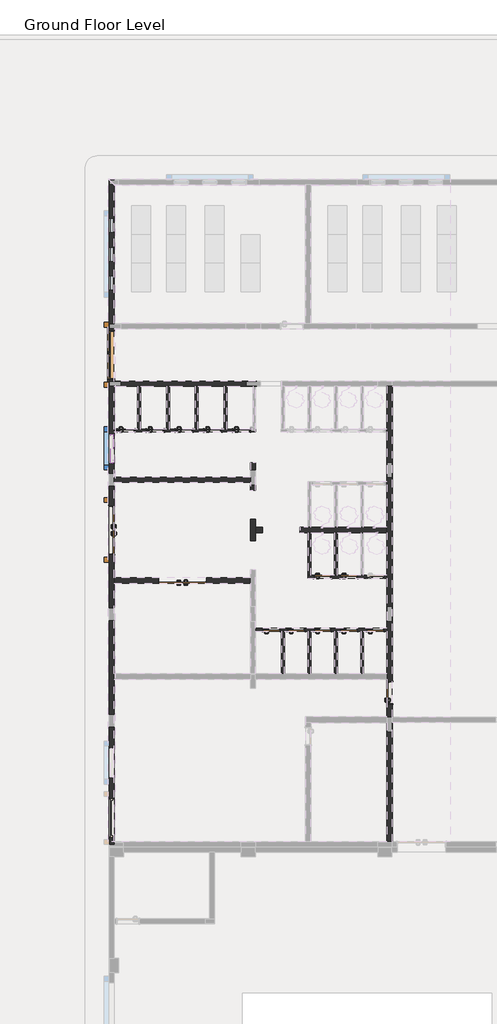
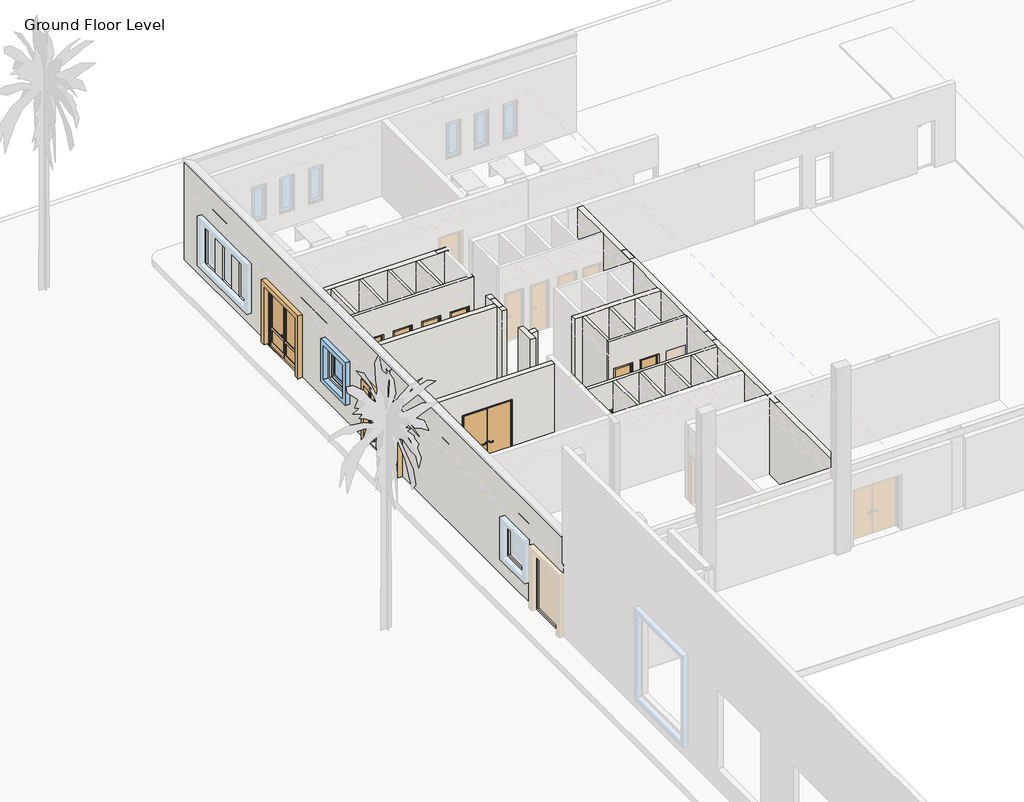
# One storey, part 7 of 23: 22 walls, 18 doors, 2 windows.
"""IFC4 building model written with IfcOpenShell, lengths in millimetres."""

from ifc_helpers import new_model, si_unit, frame, origin, place, context, project, spatial, polyline, outline, extrude, faceted_brep, transform, mapped, element, save
from components import door_batten_type_1_cc625f3b, ext_double_out_timber_2lite_nz_2000x_2500_b5d1efe6, int_double_flush_nz_2000_x_2500_d3729d4c, int_single_flush_nz_700x_2100_d6161bae, int_single_flush_nz_700x_2100_e1d28701, int_single_flush_nz_900_x_2100_021ef152, window_batten_type_1_bbb21959, window_single_shutter_w5_77842b58

model = new_model("IFC4")

# Units and contexts
model_context = context("Model", 3, world=origin())
ifc_project = project(units=[si_unit("LENGTHUNIT", "METRE", prefix="MILLI")], contexts=[model_context])

# Site, building, storey
site = spatial("IfcSite", under=ifc_project)
building = spatial("IfcBuilding", under=site)
storey = spatial("IfcBuildingStorey", under=building, Name="Ground Floor Level", Elevation=900.0)

# Doors
placement = place(None, origin())
door_batten_type_1_shape = door_batten_type_1_cc625f3b(model_context)
element("IfcDoor", 1, ObjectType="Door Batten : Type 1", at=placement, inside=storey, context=model_context, shape_type="MappedRepresentation", body=[
    mapped(door_batten_type_1_shape, transform((-21947.2327605, 7178.5912591, 987.2608957), x_axis=(0.0, -1.0, 0.0), y_axis=(1.0, 0.0, 0.0), z_axis=(0.0, 0.0, 1.0))),
])
element("IfcDoor", 2, ObjectType="Door Batten : Type 1", at=placement, inside=storey, context=model_context, shape_type="MappedRepresentation", body=[
    mapped(door_batten_type_1_shape, transform((-21947.2327605, 14481.8394477, 987.2608957), x_axis=(0.0, -1.0, 0.0), y_axis=(1.0, 0.0, 0.0), z_axis=(0.0, 0.0, 1.0))),
])
ext_double_out_timber_2lite_nz_2000x_2500_shape = ext_double_out_timber_2lite_nz_2000x_2500_b5d1efe6(model_context)
element("IfcDoor", 3, ObjectType="Ext Double Out-Timber-2Lite (NZ) : 2000x 2500", at=placement, inside=storey, context=model_context, shape_type="MappedRepresentation", body=[
    mapped(ext_double_out_timber_2lite_nz_2000x_2500_shape, transform((-21949.9622778, 14487.2153534, 900.0), x_axis=(0.0, 1.0, 0.0), y_axis=(-1.0, 0.0, 0.0), z_axis=(0.0, 0.0, 1.0))),
])
int_double_flush_nz_2000_x_2500_shape = int_double_flush_nz_2000_x_2500_d3729d4c(model_context)
element("IfcDoor", 4, ObjectType="Int Double-Flush (NZ) : 2000 x 2500", at=placement, inside=storey, context=model_context, shape_type="MappedRepresentation", body=[
    mapped(int_double_flush_nz_2000_x_2500_shape, transform((-21947.2327605, 7045.2153534, 1000.0), x_axis=(0.0, -1.0, 0.0), y_axis=(1.0, 0.0, 0.0), z_axis=(0.0, 0.0, 1.0))),
])
element("IfcDoor", 5, ObjectType="Int Double-Flush (NZ) : 2000 x 2500", at=placement, inside=storey, context=model_context, shape_type="MappedRepresentation", body=[
    mapped(int_double_flush_nz_2000_x_2500_shape, transform((-18997.2327605, 4945.2153534, 900.0), x_axis=(-1.0, 0.0, 0.0), y_axis=(0.0, -1.0, 0.0), z_axis=(0.0, 0.0, 1.0))),
])
int_single_flush_nz_700x_2100_shape = int_single_flush_nz_700x_2100_d6161bae(model_context)
element("IfcDoor", 6, ObjectType="Int Single-Flush (NZ) : 700x 2100", at=placement, inside=storey, context=model_context, shape_type="MappedRepresentation", body=[
    mapped(int_single_flush_nz_700x_2100_shape, transform((-21272.2327605, 11195.2153534, 1000.0), x_axis=(1.0, 0.0, 0.0), y_axis=(0.0, 1.0, 0.0), z_axis=(0.0, 0.0, 1.0))),
])
element("IfcDoor", 7, ObjectType="Int Single-Flush (NZ) : 700x 2100", at=placement, inside=storey, context=model_context, shape_type="MappedRepresentation", body=[
    mapped(int_single_flush_nz_700x_2100_shape, transform((-20051.2327605, 11195.2153534, 1000.0), x_axis=(1.0, 0.0, 0.0), y_axis=(0.0, 1.0, 0.0), z_axis=(0.0, 0.0, 1.0))),
])
element("IfcDoor", 8, ObjectType="Int Single-Flush (NZ) : 700x 2100", at=placement, inside=storey, context=model_context, shape_type="MappedRepresentation", body=[
    mapped(int_single_flush_nz_700x_2100_shape, transform((-18851.2327605, 11195.2153534, 1000.0), x_axis=(1.0, 0.0, 0.0), y_axis=(0.0, 1.0, 0.0), z_axis=(0.0, 0.0, 1.0))),
])
element("IfcDoor", 9, ObjectType="Int Single-Flush (NZ) : 700x 2100", at=placement, inside=storey, context=model_context, shape_type="MappedRepresentation", body=[
    mapped(int_single_flush_nz_700x_2100_shape, transform((-17651.2327605, 11195.2153534, 1000.0), x_axis=(1.0, 0.0, 0.0), y_axis=(0.0, 1.0, 0.0), z_axis=(0.0, 0.0, 1.0))),
])
element("IfcDoor", 10, ObjectType="Int Single-Flush (NZ) : 700x 2100", at=placement, inside=storey, context=model_context, shape_type="MappedRepresentation", body=[
    mapped(int_single_flush_nz_700x_2100_shape, transform((-16451.2327605, 11195.2153534, 1000.0), x_axis=(1.0, 0.0, 0.0), y_axis=(0.0, 1.0, 0.0), z_axis=(0.0, 0.0, 1.0))),
])
element("IfcDoor", 11, ObjectType="Int Single-Flush (NZ) : 700x 2100", at=placement, inside=storey, context=model_context, shape_type="MappedRepresentation", body=[
    mapped(int_single_flush_nz_700x_2100_shape, transform((-13072.2327605, 5095.2153534, 1000.0), x_axis=(1.0, 0.0, 0.0), y_axis=(0.0, 1.0, 0.0), z_axis=(0.0, 0.0, 1.0))),
])
element("IfcDoor", 12, ObjectType="Int Single-Flush (NZ) : 700x 2100", at=placement, inside=storey, context=model_context, shape_type="MappedRepresentation", body=[
    mapped(int_single_flush_nz_700x_2100_shape, transform((-11972.2327605, 5095.2153534, 1000.0), x_axis=(1.0, 0.0, 0.0), y_axis=(0.0, 1.0, 0.0), z_axis=(0.0, 0.0, 1.0))),
])
int_single_flush_nz_700x_2100_2_shape = int_single_flush_nz_700x_2100_e1d28701(model_context)
element("IfcDoor", 13, ObjectType="Int Single-Flush (NZ) : 700x 2100", at=placement, inside=storey, context=model_context, shape_type="MappedRepresentation", body=[
    mapped(int_single_flush_nz_700x_2100_2_shape, transform((-10872.2327605, 2885.2153534, 1000.0), x_axis=(1.0, 0.0, 0.0), y_axis=(0.0, 1.0, 0.0), z_axis=(0.0, 0.0, 1.0))),
])
element("IfcDoor", 14, ObjectType="Int Single-Flush (NZ) : 700x 2100", at=placement, inside=storey, context=model_context, shape_type="MappedRepresentation", body=[
    mapped(int_single_flush_nz_700x_2100_2_shape, transform((-11972.2327605, 2885.2153534, 1000.0), x_axis=(1.0, 0.0, 0.0), y_axis=(0.0, 1.0, 0.0), z_axis=(0.0, 0.0, 1.0))),
])
element("IfcDoor", 15, ObjectType="Int Single-Flush (NZ) : 700x 2100", at=placement, inside=storey, context=model_context, shape_type="MappedRepresentation", body=[
    mapped(int_single_flush_nz_700x_2100_2_shape, transform((-13072.2327605, 2885.2153534, 1000.0), x_axis=(1.0, 0.0, 0.0), y_axis=(0.0, 1.0, 0.0), z_axis=(0.0, 0.0, 1.0))),
])
element("IfcDoor", 16, ObjectType="Int Single-Flush (NZ) : 700x 2100", at=placement, inside=storey, context=model_context, shape_type="MappedRepresentation", body=[
    mapped(int_single_flush_nz_700x_2100_2_shape, transform((-14172.2327605, 2885.2153534, 1000.0), x_axis=(1.0, 0.0, 0.0), y_axis=(0.0, 1.0, 0.0), z_axis=(0.0, 0.0, 1.0))),
])
element("IfcDoor", 17, ObjectType="Int Single-Flush (NZ) : 700x 2100", at=placement, inside=storey, context=model_context, shape_type="MappedRepresentation", body=[
    mapped(int_single_flush_nz_700x_2100_2_shape, transform((-15201.7327605, 2885.2153534, 1000.0), x_axis=(1.0, 0.0, 0.0), y_axis=(0.0, 1.0, 0.0), z_axis=(0.0, 0.0, 1.0))),
])
int_single_flush_nz_900_x_2100_shape = int_single_flush_nz_900_x_2100_021ef152(model_context)
element("IfcDoor", 18, ObjectType="Int Single-Flush (NZ) : 900 x 2100", at=placement, inside=storey, context=model_context, shape_type="MappedRepresentation", body=[
    mapped(int_single_flush_nz_900_x_2100_shape, transform((-10347.2327605, 341.2153534, 1000.0), x_axis=(0.0, 1.0, 0.0), y_axis=(-1.0, 0.0, 0.0), z_axis=(0.0, 0.0, 1.0))),
])

# Walls
element("IfcWall", 19, ObjectType="Exterior - Blockwork 200mm", at=placement, inside=storey, context=model_context, shape_type="Brep", body=[
    faceted_brep([(-21837.2327605, 21655.2153534, 5302.8002678), (-21837.2327605, 21435.2153534, 5302.8002678), (-21837.2327605, -5944.7846466, 5302.8002678), (-21837.2327605, -5944.7846466, 4550.0), (-21837.2327605, 21435.2153534, 4550.0), (-21837.2327605, 21645.2153534, 4550.0), (-21837.2327605, 21645.2153534, 900.0), (-21837.2327605, 21655.2153534, 900.0), (-21837.2327605, 13045.2153534, 4400.0), (-21837.2327605, 13035.2153534, 4400.0), (-21837.2327605, 11255.2153534, 4400.0), (-21837.2327605, 11135.2153534, 4400.0), (-21837.2327605, 9255.2153534, 4400.0), (-21837.2327605, 9035.2153534, 4400.0), (-21837.2327605, 5055.2153534, 4400.0), (-21837.2327605, 4835.2153534, 4400.0), (-21837.2327605, 1055.2153534, 4400.0), (-21837.2327605, 835.2153534, 4400.0), (-21837.2327605, -5944.7846466, 4400.0), (-21837.2327605, -5944.7846466, 4100.0), (-21837.2327605, -5954.7846466, 4100.0), (-21837.2327605, -6054.7846466, 4100.0), (-21837.2327605, -6054.7846466, 900.0), (-21837.2327605, -5954.7846466, 900.0), (-21837.2327605, -5954.7846466, 1000.0), (-21837.2327605, -5944.7846466, 1000.0), (-21837.2327605, -5744.7846466, 1000.0), (-21837.2327605, -5744.7846466, 3500.0), (-21837.2327605, -4144.7846466, 3500.0), (-21837.2327605, -4144.7846466, 1000.0), (-21837.2327605, 835.2153534, 1000.0), (-21837.2327605, 1055.2153534, 1000.0), (-21837.2327605, 6026.2153534, 1000.0), (-21837.2327605, 6026.2153534, 3519.0), (-21837.2327605, 8064.2153534, 3519.0), (-21837.2327605, 8064.2153534, 1000.0), (-21837.2327605, 13035.2153534, 1000.0), (-21837.2327605, 13045.2153534, 1000.0), (-21837.2327605, 11035.2153534, 2100.0), (-21837.2327605, 9835.2153534, 2100.0), (-21837.2327605, 9835.2153534, 3400.0), (-21837.2327605, 11035.2153534, 3400.0), (-21837.2327605, -3244.7846455, 2100.0), (-21837.2327605, -3244.7846455, 3400.0), (-21837.2327605, -2044.7846455, 3400.0), (-21837.2327605, -2044.7846455, 2100.0), (-21837.2327605, 15445.2153534, 4400.0), (-21837.2327605, 15435.2153534, 4400.0), (-21837.2327605, 13255.2153534, 4400.0), (-21837.2327605, 13245.2153534, 4400.0), (-21837.2327605, 13245.2153534, 1000.0), (-21837.2327605, 13319.2153534, 1000.0), (-21837.2327605, 13319.2153534, 3400.0), (-21837.2327605, 15371.2153534, 3400.0), (-21837.2327605, 15371.2153534, 1000.0), (-21837.2327605, 15435.2153534, 1000.0), (-21837.2327605, 15445.2153534, 1000.0), (-21837.2327605, 15645.2153534, 1000.0), (-21837.2327605, 15655.2153534, 1000.0), (-21837.2327605, 21435.2153534, 1000.0), (-21837.2327605, 21445.2153534, 1000.0), (-21837.2327605, 21445.2153534, 4400.0), (-21837.2327605, 21435.2153534, 4400.0), (-21837.2327605, 15655.2153534, 4400.0), (-21837.2327605, 15645.2153534, 4400.0), (-21837.2327605, 20035.2153534, 1700.0), (-21837.2327605, 19435.2153534, 1700.0), (-21837.2327605, 19435.2153534, 3300.0), (-21837.2327605, 20035.2153534, 3300.0), (-21837.2327605, 18835.2153534, 1700.0), (-21837.2327605, 18235.2153534, 1700.0), (-21837.2327605, 18235.2153534, 3300.0), (-21837.2327605, 18835.2153534, 3300.0), (-21837.2327605, 17635.2153534, 1700.0), (-21837.2327605, 17035.2153534, 1700.0), (-21837.2327605, 17035.2153534, 3300.0), (-21837.2327605, 17635.2153534, 3300.0), (-22057.2327605, -5944.7846466, 5302.8002678), (-22057.2327605, 21655.2153534, 5302.8002678), (-22057.2327605, 21655.2153534, 900.0), (-22057.2327605, 15371.2153534, 900.0), (-22057.2327605, 15371.2153534, 3400.0), (-22057.2327605, 13319.2153534, 3400.0), (-22057.2327605, 13319.2153534, 900.0), (-22057.2327605, -6054.7846466, 900.0), (-22057.2327605, -6054.7846466, 4100.0), (-22057.2327605, -5944.7846466, 4100.0), (-22057.2327605, 19435.2153534, 1700.0), (-22057.2327605, 20035.2153534, 1700.0), (-22057.2327605, 20035.2153534, 3300.0), (-22057.2327605, 19435.2153534, 3300.0), (-22057.2327605, 18235.2153534, 1700.0), (-22057.2327605, 18835.2153534, 1700.0), (-22057.2327605, 18835.2153534, 3300.0), (-22057.2327605, 18235.2153534, 3300.0), (-22057.2327605, 17035.2153534, 1700.0), (-22057.2327605, 17635.2153534, 1700.0), (-22057.2327605, 17635.2153534, 3300.0), (-22057.2327605, 17035.2153534, 3300.0), (-22057.2327605, 9835.2153534, 2100.0), (-22057.2327605, 11035.2153534, 2100.0), (-22057.2327605, 11035.2153534, 3400.0), (-22057.2327605, 9835.2153534, 3400.0), (-22057.2327605, -3244.7846455, 3400.0), (-22057.2327605, -3244.7846455, 2100.0), (-22057.2327605, -2044.7846455, 2100.0), (-22057.2327605, -2044.7846455, 3400.0), (-22057.2327605, 6026.2153534, 3519.0), (-22057.2327605, 6026.2153534, 1000.0), (-22057.2327605, 8064.2153534, 1000.0), (-22057.2327605, 8064.2153534, 3519.0), (-22057.2327605, -4144.7846466, 1000.0), (-22057.2327605, -4144.7846466, 3500.0), (-22057.2327605, -5744.7846466, 3500.0), (-22057.2327605, -5744.7846466, 1000.0), (-22047.2327605, 9395.2153534, 900.0), (-22047.2327605, 9395.2153534, 4400.0), (-22047.2327605, 13045.2153534, 4400.0), (-22047.2327605, 13045.2153534, 900.0), (-22047.2327605, 13245.2153534, 900.0), (-22047.2327605, 13245.2153534, 4400.0), (-22047.2327605, 15445.2153534, 4400.0), (-22047.2327605, 15445.2153534, 900.0), (-22047.2327605, 15645.2153534, 900.0), (-22047.2327605, 15645.2153534, 4400.0), (-22047.2327605, 21445.2153534, 4400.0), (-22047.2327605, 21445.2153534, 900.0), (-22047.2327605, 21645.2153534, 900.0), (-22047.2327605, 21645.2153534, 4400.0), (-22047.2327605, 21645.2153534, 4550.0), (-22047.2327605, -5944.7846466, 4550.0), (-22047.2327605, -5944.7846466, 4400.0), (-22047.2327605, -1154.7846466, 4400.0), (-22047.2327605, -1154.7846466, 900.0), (-22047.2327605, -654.7846466, 900.0), (-22047.2327605, -654.7846466, 4400.0), (-22047.2327605, 3295.2153534, 4400.0), (-22047.2327605, 3295.2153534, 900.0), (-22047.2327605, 3795.2153534, 900.0), (-22047.2327605, 3795.2153534, 4400.0), (-22047.2327605, 8895.2153534, 4400.0), (-22047.2327605, 8895.2153534, 900.0), (-21847.2327605, 9395.2153534, 900.0), (-21847.2327605, 9395.2153534, 1000.0), (-21847.2327605, 9395.2153534, 4400.0), (-21847.2327605, 8895.2153534, 4400.0), (-21847.2327605, 8895.2153534, 1000.0), (-21847.2327605, 8895.2153534, 900.0), (-21847.2327605, 3795.2153534, 900.0), (-21847.2327605, 3795.2153534, 1000.0), (-21847.2327605, 3795.2153534, 4400.0), (-21847.2327605, 3295.2153534, 4400.0), (-21847.2327605, 3295.2153534, 1000.0), (-21847.2327605, 3295.2153534, 900.0), (-21847.2327605, -654.7846466, 900.0), (-21847.2327605, -654.7846466, 1000.0), (-21847.2327605, -654.7846466, 4400.0), (-21847.2327605, -1154.7846466, 4400.0), (-21847.2327605, -1154.7846466, 1000.0), (-21847.2327605, -1154.7846466, 900.0), (-21847.2327605, 13245.2153534, 900.0), (-21847.2327605, 13245.2153534, 1000.0), (-21847.2327605, 13045.2153534, 1000.0), (-21847.2327605, 13045.2153534, 900.0), (-21847.2327605, 15645.2153534, 900.0), (-21847.2327605, 15645.2153534, 1000.0), (-21847.2327605, 15445.2153534, 1000.0), (-21847.2327605, 15445.2153534, 900.0), (-21847.2327605, 21445.2153534, 1000.0), (-21847.2327605, 21445.2153534, 900.0), (-21847.2327605, 13319.2153534, 1000.0), (-21847.2327605, 15371.2153534, 1000.0), (-21847.2327605, 13319.2153534, 900.0), (-21847.2327605, 15371.2153534, 900.0), (-21847.2327605, 6026.2153534, 1000.0), (-21847.2327605, -4144.7846466, 1000.0), (-21847.2327605, 845.2153534, 1000.0), (-21847.2327605, 8064.2153534, 1000.0), (-21847.2327605, -5954.7846466, 1000.0), (-21847.2327605, -5744.7846466, 1000.0), (-21847.2327605, 845.2153534, 900.0), (-21847.2327605, -5954.7846466, 900.0), (-22047.2327605, -6054.7846466, 900.0), (-22047.2327605, -6054.7846466, 4100.0)], [[[0, 1, 2, 3, 4, 5, 6, 7]], [[8, 9, 10, 11, 12, 13, 14, 15, 16, 17, 18, 19, 20, 21, 22, 23, 24, 25, 26, 27, 28, 29, 30, 31, 32, 33, 34, 35, 36, 37], [38, 39, 40, 41], [42, 43, 44, 45]], [[46, 47, 48, 49, 50, 51, 52, 53, 54, 55, 56]], [[57, 58, 59, 60, 61, 62, 63, 64], [65, 66, 67, 68], [69, 70, 71, 72], [73, 74, 75, 76]], [[77, 78, 79, 80, 81, 82, 83, 84, 85, 86], [87, 88, 89, 90], [91, 92, 93, 94], [95, 96, 97, 98], [99, 100, 101, 102], [103, 104, 105, 106], [107, 108, 109, 110], [111, 112, 113, 114]], [[0, 7, 79, 78]], [[66, 65, 88, 87]], [[65, 68, 89, 88]], [[68, 67, 90, 89]], [[67, 66, 87, 90]], [[70, 69, 92, 91]], [[69, 72, 93, 92]], [[72, 71, 94, 93]], [[71, 70, 91, 94]], [[74, 73, 96, 95]], [[73, 76, 97, 96]], [[76, 75, 98, 97]], [[75, 74, 95, 98]], [[39, 38, 100, 99]], [[38, 41, 101, 100]], [[41, 40, 102, 101]], [[40, 39, 99, 102]], [[115, 116, 117, 118, 119, 120, 121, 122, 123, 124, 125, 126, 127, 128, 129, 130, 131, 132, 133, 134, 135, 136, 137, 138, 139, 140, 141]], [[116, 115, 142, 143, 144]], [[145, 144, 143, 146]], [[141, 140, 145, 146, 147]], [[139, 138, 148, 149, 150]], [[151, 150, 149, 152]], [[137, 136, 151, 152, 153]], [[135, 134, 154, 155, 156]], [[157, 156, 155, 158]], [[133, 132, 157, 158, 159]], [[120, 119, 160, 161, 50, 49]], [[118, 117, 8, 37, 162, 163]], [[124, 123, 164, 165, 57, 64]], [[122, 121, 46, 56, 166, 167]], [[5, 129, 128, 127, 6]], [[126, 125, 61, 60, 168, 169]], [[43, 42, 104, 103]], [[44, 43, 103, 106]], [[45, 44, 106, 105]], [[42, 45, 105, 104]], [[140, 139, 150, 151, 136, 135, 156, 157, 132, 131, 18, 17, 16, 15, 14, 13, 12, 11, 10, 9, 8, 117, 116, 144, 145]], [[121, 120, 49, 48, 47, 46]], [[125, 124, 64, 63, 62, 61]], [[129, 5, 4, 3, 130]], [[51, 50, 161, 170]], [[166, 56, 55, 54, 171]], [[161, 160, 172, 170]], [[167, 166, 171, 173]], [[165, 168, 60, 59, 58, 57]], [[168, 165, 164, 169]], [[152, 149, 174, 32, 31, 30, 29, 175, 158, 155, 176]], [[143, 162, 37, 36, 35, 177, 146]], [[178, 179, 26, 25, 24]], [[147, 146, 177, 174, 149, 148]], [[162, 143, 142, 163]], [[152, 176, 155, 154, 180, 153]], [[178, 181, 159, 158, 175, 179]], [[181, 178, 24, 23]], [[107, 33, 32, 174, 108]], [[33, 107, 110, 34]], [[34, 110, 109, 177, 35]], [[109, 108, 174, 177]], [[28, 112, 111, 175, 29]], [[112, 28, 27, 113]], [[113, 27, 26, 179, 114]], [[111, 114, 179, 175]], [[53, 81, 80, 173, 171, 54]], [[81, 53, 52, 82]], [[82, 52, 51, 170, 172, 83]], [[77, 86, 19, 18, 131, 130, 3, 2]], [[80, 79, 7, 6, 127, 126, 169, 164, 123, 122, 167, 173]], [[84, 83, 172, 160, 119, 118, 163, 142, 115, 141, 147, 148, 138, 137, 153, 180, 154, 134, 133, 159, 181, 23, 22, 182]], [[2, 1, 0, 78, 77]], [[22, 21, 183, 85, 84, 182]], [[86, 85, 183, 21, 20, 19]]]),
])
element("IfcWall", 20, ObjectType="Interior - Blockwork 200", at=placement, inside=storey, context=model_context, shape_type="Brep", body=[
    faceted_brep([(-15896.7889704, 13035.2153534, 4400.0), (-15937.2327605, 13035.2153534, 4400.0), (-16057.2327605, 13035.2153534, 4400.0), (-17137.2327605, 13035.2153534, 4400.0), (-17257.2327605, 13035.2153534, 4400.0), (-18337.2327605, 13035.2153534, 4400.0), (-18457.2327605, 13035.2153534, 4400.0), (-19537.2327605, 13035.2153534, 4400.0), (-19657.2327605, 13035.2153534, 4400.0), (-20737.2327605, 13035.2153534, 4400.0), (-20857.2327605, 13035.2153534, 4400.0), (-21837.2327605, 13035.2153534, 4400.0), (-21837.2327605, 13035.2153534, 1000.0), (-15896.7889704, 13035.2153534, 1000.0), (-15896.7889704, 13255.2153534, 900.0), (-21837.2327605, 13255.2153534, 900.0), (-21837.2327605, 13255.2153534, 4400.0), (-15896.7889704, 13255.2153534, 4400.0), (-15896.7889704, 13245.2153534, 900.0), (-16347.2327605, 13245.2153534, 900.0), (-16347.2327605, 13045.2153534, 900.0), (-21547.2327605, 13045.2153534, 900.0), (-21547.2327605, 13245.2153534, 900.0), (-21837.2327605, 13245.2153534, 900.0), (-15896.7889704, 13245.2153534, 4400.0), (-15896.7889704, 13045.2153534, 4400.0), (-15896.7889704, 13045.2153534, 1000.0), (-21837.2327605, 13245.2153534, 1000.0), (-21837.2327605, 13245.2153534, 4400.0), (-21837.2327605, 13045.2153534, 4400.0), (-21837.2327605, 13045.2153534, 1000.0), (-21547.2327605, 13245.2153534, 4400.0), (-21547.2327605, 13045.2153534, 1000.0), (-21547.2327605, 13045.2153534, 4400.0), (-16347.2327605, 13045.2153534, 4400.0), (-16347.2327605, 13045.2153534, 1000.0), (-16347.2327605, 13245.2153534, 4400.0)], [[[0, 1, 2, 3, 4, 5, 6, 7, 8, 9, 10, 11, 12, 13]], [[14, 15, 16, 17]], [[15, 14, 18, 19, 20, 21, 22, 23]], [[14, 17, 24, 18]], [[25, 0, 13, 26]], [[16, 15, 23, 27, 28]], [[11, 29, 30, 12]], [[22, 31, 28, 27, 23]], [[31, 22, 21, 32, 33]], [[29, 33, 32, 30]], [[34, 25, 26, 35]], [[19, 36, 34, 35, 20]], [[36, 19, 18, 24]], [[11, 10, 9, 8, 7, 6, 5, 4, 3, 2, 1, 0, 25, 34, 36, 24, 17, 16, 28, 31, 33, 29]], [[32, 35, 26, 13, 12, 30]], [[35, 32, 21, 20]]]),
])
element("IfcWall", 21, ObjectType="Interior - Blockwork 200", at=placement, inside=storey, context=model_context, shape_type="SweptSolid", body=[
    extrude(outline(polyline([(-16157.2327605, 9035.2153534), (-21837.2327605, 9035.2153534), (-21837.2327605, 9255.2153534), (-16157.2327605, 9255.2153534), (-16157.2327605, 9035.2153534)])), frame((0.0, 0.0, 900.0), z_axis=(0.0, 0.0, 1.0), x_axis=(1.0, 0.0, 0.0)), (0.0, 0.0, 1.0), 3500.0),
])
element("IfcWall", 22, ObjectType="Interior - Blockwork 200", at=placement, inside=storey, context=model_context, shape_type="Brep", body=[
    faceted_brep([(-16157.2327605, 9845.2153534, 900.0), (-16157.2327605, 9255.2153534, 900.0), (-16157.2327605, 9035.2153534, 900.0), (-16157.2327605, 8700.2153534, 900.0), (-16157.2327605, 8700.2153534, 4400.0), (-16157.2327605, 9035.2153534, 4400.0), (-16157.2327605, 9255.2153534, 4400.0), (-16157.2327605, 9845.2153534, 4400.0), (-15937.2327605, 8700.2153534, 900.0), (-15937.2327605, 9845.2153534, 900.0), (-15937.2327605, 9845.2153534, 4400.0), (-15937.2327605, 8700.2153534, 4400.0), (-16147.2327605, 8945.2153534, 900.0), (-15947.2327605, 8945.2153534, 900.0), (-15947.2327605, 9545.2153534, 900.0), (-16147.2327605, 9545.2153534, 900.0), (-16147.2327605, 8945.2153534, 4400.0), (-15947.2327605, 8945.2153534, 4400.0), (-16147.2327605, 9545.2153534, 4400.0), (-15947.2327605, 9545.2153534, 4400.0)], [[[0, 1, 2, 3, 4, 5, 6, 7]], [[8, 9, 10, 11]], [[3, 2, 1, 0, 9, 8], [12, 13, 14, 15]], [[4, 3, 8, 11]], [[0, 7, 10, 9]], [[12, 16, 17, 13]], [[16, 12, 15, 18]], [[18, 15, 14, 19]], [[19, 14, 13, 17]], [[7, 6, 5, 4, 11, 10], [17, 16, 18, 19]]]),
])
element("IfcWall", 23, ObjectType="Interior - Blockwork 200", at=placement, inside=storey, context=model_context, shape_type="Brep", body=[
    faceted_brep([(-16157.2327605, 7490.2153534, 900.0), (-16157.2327605, 6600.2153534, 900.0), (-16157.2327605, 6600.2153534, 4400.0), (-16157.2327605, 7490.2153534, 4400.0), (-15937.2327605, 7490.2153534, 900.0), (-15937.2327605, 7490.2153534, 4400.0), (-15937.2327605, 7155.2153534, 4400.0), (-15937.2327605, 6935.2153534, 4400.0), (-15937.2327605, 6600.2153534, 4400.0), (-15937.2327605, 6600.2153534, 900.0), (-15937.2327605, 6935.2153534, 900.0), (-15937.2327605, 7155.2153534, 900.0)], [[[0, 1, 2, 3]], [[4, 5, 6, 7, 8, 9, 10, 11]], [[1, 0, 4, 11, 10, 9]], [[2, 1, 9, 8]], [[0, 3, 5, 4]], [[3, 2, 8, 7, 6, 5]]]),
])
element("IfcWall", 24, ObjectType="Interior - Blockwork 200", at=placement, inside=storey, context=model_context, shape_type="SweptSolid", body=[
    extrude(outline(polyline([(-15661.6177827, 6935.2153534), (-15937.2327605, 6935.2153534), (-15937.2327605, 7155.2153534), (-15661.6177827, 7155.2153534), (-15661.6177827, 6935.2153534)])), frame((0.0, 0.0, 900.0), z_axis=(0.0, 0.0, 1.0), x_axis=(1.0, 0.0, 0.0)), (0.0, 0.0, 1.0), 3500.0),
])
element("IfcWall", 25, ObjectType="Interior - Blockwork 200", at=placement, inside=storey, context=model_context, shape_type="SweptSolid", body=[
    extrude(outline(polyline([(900.0, -16157.2327605), (4400.0, -16157.2327605), (4400.0, -21837.2327605), (900.0, -21837.2327605), (900.0, -20016.2327605), (3419.0, -20016.2327605), (3419.0, -17978.2327605), (900.0, -17978.2327605), (900.0, -16157.2327605)])), frame((0.0, 4835.2153534, 0.0), z_axis=(0.0, 1.0, 0.0), x_axis=(0.0, 0.0, 1.0)), (0.0, 0.0, 1.0), 220.0),
])
element("IfcWall", 26, ObjectType="Interior - Blockwork 200", at=placement, inside=storey, context=model_context, shape_type="Brep", body=[
    faceted_brep([(-10457.2327605, -5944.7846466, 4400.0), (-10457.2327605, -974.7846466, 4400.0), (-10457.2327605, -734.7846466, 4400.0), (-10457.2327605, 835.2153534, 4400.0), (-10457.2327605, 1055.2153534, 4400.0), (-10457.2327605, 2825.2153534, 4400.0), (-10457.2327605, 2945.2153534, 4400.0), (-10457.2327605, 5035.2153534, 4400.0), (-10457.2327605, 5155.2153534, 4400.0), (-10457.2327605, 6935.2153534, 4400.0), (-10457.2327605, 7155.2153534, 4400.0), (-10457.2327605, 8935.2153534, 4400.0), (-10457.2327605, 9055.2153534, 4400.0), (-10457.2327605, 11135.2153534, 4400.0), (-10457.2327605, 11255.2153534, 4400.0), (-10457.2327605, 13035.2153534, 4400.0), (-10457.2327605, 13035.2153534, 1000.0), (-10457.2327605, 1055.2153534, 1000.0), (-10457.2327605, 845.2153534, 1000.0), (-10457.2327605, 845.2153534, 900.0), (-10457.2327605, -754.7846466, 900.0), (-10457.2327605, -954.7846466, 900.0), (-10457.2327605, -954.7846466, 1000.0), (-10457.2327605, -974.7846466, 1000.0), (-10457.2327605, -5944.7846466, 1000.0), (-10457.2327605, 735.2153534, 1000.0), (-10457.2327605, 735.2153534, 3119.0), (-10457.2327605, -202.7846466, 3119.0), (-10457.2327605, -202.7846466, 1000.0), (-10237.2327605, 13035.2153534, 4400.0), (-10237.2327605, -744.7846466, 4400.0), (-10237.2327605, -964.7846466, 4400.0), (-10237.2327605, -5944.7846466, 4400.0), (-10237.2327605, -5944.7846466, 910.0), (-10237.2327605, -964.7846466, 910.0), (-10237.2327605, -954.7846466, 910.0), (-10237.2327605, -954.7846466, 900.0), (-10237.2327605, -754.7846466, 900.0), (-10237.2327605, -754.7846466, 1000.0), (-10237.2327605, -744.7846466, 1000.0), (-10237.2327605, -202.7846466, 1000.0), (-10237.2327605, -202.7846466, 3119.0), (-10237.2327605, 735.2153534, 3119.0), (-10237.2327605, 735.2153534, 1000.0), (-10237.2327605, 13035.2153534, 1000.0), (-10247.2327605, -754.7846466, 900.0), (-10447.2327605, -754.7846466, 900.0), (-10447.2327605, -954.7846466, 900.0), (-10447.2327605, 845.2153534, 900.0), (-10447.2327605, 3245.2153534, 900.0), (-10247.2327605, 3245.2153534, 900.0), (-10447.2327605, -1354.7846466, 900.0), (-10247.2327605, -1354.7846466, 900.0), (-10247.2327605, -5944.7846466, 900.0), (-10447.2327605, -5944.7846466, 900.0), (-10247.2327605, 3845.2153534, 900.0), (-10447.2327605, 3845.2153534, 900.0), (-10447.2327605, 9245.2153534, 900.0), (-10247.2327605, 9245.2153534, 900.0), (-10247.2327605, 9845.2153534, 900.0), (-10447.2327605, 9845.2153534, 900.0), (-10447.2327605, 13035.2153534, 900.0), (-10247.2327605, 13035.2153534, 900.0), (-10247.2327605, -954.7846466, 900.0), (-10247.2327605, 13035.2153534, 1000.0), (-10447.2327605, 13035.2153534, 1000.0), (-10447.2327605, -754.7846466, 4400.0), (-10447.2327605, -1354.7846466, 4400.0), (-10447.2327605, -1354.7846466, 1000.0), (-10447.2327605, -954.7846466, 1000.0), (-10247.2327605, -754.7846466, 1000.0), (-10247.2327605, -754.7846466, 4400.0), (-10247.2327605, -1354.7846466, 4400.0), (-10247.2327605, -954.7846466, 910.0), (-10247.2327605, -1354.7846466, 910.0), (-10247.2327605, 3245.2153534, 4400.0), (-10247.2327605, 3845.2153534, 4400.0), (-10247.2327605, 3845.2153534, 1000.0), (-10247.2327605, 3245.2153534, 1000.0), (-10447.2327605, 3245.2153534, 1000.0), (-10447.2327605, 3245.2153534, 4400.0), (-10447.2327605, 3845.2153534, 4400.0), (-10447.2327605, 3845.2153534, 1000.0), (-10247.2327605, 9245.2153534, 4400.0), (-10247.2327605, 9845.2153534, 4400.0), (-10247.2327605, 9845.2153534, 1000.0), (-10247.2327605, 9245.2153534, 1000.0), (-10447.2327605, 9245.2153534, 1000.0), (-10447.2327605, 9245.2153534, 4400.0), (-10447.2327605, 9845.2153534, 4400.0), (-10447.2327605, 9845.2153534, 1000.0), (-10247.2327605, -754.7846466, 1000.0), (-10247.2327605, -202.7846466, 1000.0), (-10247.2327605, 735.2153534, 1000.0), (-10447.2327605, 845.2153534, 1000.0), (-10447.2327605, -5944.7846466, 1000.0), (-10247.2327605, -5944.7846466, 910.0)], [[[0, 1, 2, 3, 4, 5, 6, 7, 8, 9, 10, 11, 12, 13, 14, 15, 16, 17, 18, 19, 20, 21, 22, 23, 24], [25, 26, 27, 28]], [[29, 30, 31, 32, 33, 34, 35, 36, 37, 38, 39, 40, 41, 42, 43, 44]], [[45, 46, 47, 21, 20, 19, 48, 49, 50]], [[51, 52, 53, 54]], [[55, 56, 57, 58]], [[59, 60, 61, 62]], [[45, 37, 36, 63]], [[15, 29, 44, 64, 62, 61, 65, 16]], [[46, 66, 67, 68, 69, 47]], [[66, 46, 45, 70, 71]], [[72, 71, 70, 45, 63, 73, 74]], [[52, 51, 68, 67, 72, 74]], [[75, 76, 77, 78]], [[50, 49, 79, 80, 75, 78]], [[81, 80, 79, 82]], [[56, 55, 77, 76, 81, 82]], [[83, 84, 85, 86]], [[58, 57, 87, 88, 83, 86]], [[89, 88, 87, 90]], [[60, 59, 85, 84, 89, 90]], [[15, 14, 13, 12, 11, 10, 9, 8, 7, 6, 5, 4, 3, 2, 1, 0, 32, 31, 30, 29], [67, 66, 71, 72], [76, 75, 80, 81], [84, 83, 88, 89]], [[38, 91, 92, 40, 39]], [[77, 86, 85, 64, 44, 43, 93, 78]], [[45, 91, 38, 37]], [[86, 77, 55, 58]], [[64, 85, 59, 62]], [[91, 45, 50, 78, 93, 92]], [[79, 94, 18, 17, 16, 65, 90, 87, 82]], [[82, 87, 57, 56]], [[90, 65, 61, 60]], [[48, 94, 79, 49]], [[94, 48, 19, 18]], [[22, 69, 68, 95, 24, 23]], [[69, 22, 21, 47]], [[95, 68, 51, 54]], [[73, 35, 34, 33, 96, 74]], [[35, 73, 63, 36]], [[74, 96, 53, 52]], [[26, 25, 93, 43, 42]], [[28, 27, 41, 40, 92]], [[25, 28, 92, 93]], [[41, 27, 26, 42]], [[32, 0, 24, 95, 54, 53, 96, 33]]]),
])
element("IfcWall", 27, ObjectType="Interior - Blockwork 200", at=placement, inside=storey, context=model_context, shape_type="Brep", body=[
    faceted_brep([(-14101.3641497, 6935.2153534, 900.0), (-13757.2327605, 6935.2153534, 900.0), (-13637.2327605, 6935.2153534, 900.0), (-12657.2327605, 6935.2153534, 900.0), (-12537.2327605, 6935.2153534, 900.0), (-11557.2327605, 6935.2153534, 900.0), (-11437.2327605, 6935.2153534, 900.0), (-10457.2327605, 6935.2153534, 900.0), (-10457.2327605, 6935.2153534, 4400.0), (-11437.2327605, 6935.2153534, 4400.0), (-11557.2327605, 6935.2153534, 4400.0), (-12537.2327605, 6935.2153534, 4400.0), (-12657.2327605, 6935.2153534, 4400.0), (-13637.2327605, 6935.2153534, 4400.0), (-13757.2327605, 6935.2153534, 4400.0), (-14101.3641497, 6935.2153534, 4400.0), (-14101.3641497, 7155.2153534, 900.0), (-14101.3641497, 7155.2153534, 4400.0), (-13757.2327605, 7155.2153534, 4400.0), (-13637.2327605, 7155.2153534, 4400.0), (-12657.2327605, 7155.2153534, 4400.0), (-12537.2327605, 7155.2153534, 4400.0), (-11557.2327605, 7155.2153534, 4400.0), (-11437.2327605, 7155.2153534, 4400.0), (-10457.2327605, 7155.2153534, 4400.0), (-10457.2327605, 7155.2153534, 900.0), (-11437.2327605, 7155.2153534, 900.0), (-11557.2327605, 7155.2153534, 900.0), (-12537.2327605, 7155.2153534, 900.0), (-12657.2327605, 7155.2153534, 900.0), (-13637.2327605, 7155.2153534, 900.0), (-13757.2327605, 7155.2153534, 900.0)], [[[0, 1, 2, 3, 4, 5, 6, 7, 8, 9, 10, 11, 12, 13, 14, 15]], [[16, 17, 18, 19, 20, 21, 22, 23, 24, 25, 26, 27, 28, 29, 30, 31]], [[7, 6, 5, 4, 3, 2, 1, 0, 16, 31, 30, 29, 28, 27, 26, 25]], [[0, 15, 17, 16]], [[8, 7, 25, 24]], [[15, 14, 13, 12, 11, 10, 9, 8, 24, 23, 22, 21, 20, 19, 18, 17]]]),
])
element("IfcWall", 28, ObjectType="Interior -Blockwork 100mm", at=placement, inside=storey, context=model_context, shape_type="Brep", body=[
    faceted_brep([(-15937.2327605, 2825.2153534, 900.0), (-14857.2327605, 2825.2153534, 900.0), (-14737.2327605, 2825.2153534, 900.0), (-13757.2327605, 2825.2153534, 900.0), (-13637.2327605, 2825.2153534, 900.0), (-12657.2327605, 2825.2153534, 900.0), (-12537.2327605, 2825.2153534, 900.0), (-11557.2327605, 2825.2153534, 900.0), (-11437.2327605, 2825.2153534, 900.0), (-10457.2327605, 2825.2153534, 900.0), (-10457.2327605, 2825.2153534, 4400.0), (-11437.2327605, 2825.2153534, 4400.0), (-11557.2327605, 2825.2153534, 4400.0), (-12537.2327605, 2825.2153534, 4400.0), (-12657.2327605, 2825.2153534, 4400.0), (-13637.2327605, 2825.2153534, 4400.0), (-13757.2327605, 2825.2153534, 4400.0), (-14737.2327605, 2825.2153534, 4400.0), (-14857.2327605, 2825.2153534, 4400.0), (-15937.2327605, 2825.2153534, 4400.0), (-10578.2327605, 2825.2153534, 3119.0), (-10578.2327605, 2825.2153534, 1000.0), (-11316.2327605, 2825.2153534, 1000.0), (-11316.2327605, 2825.2153534, 3119.0), (-11678.2327605, 2825.2153534, 3119.0), (-11678.2327605, 2825.2153534, 1000.0), (-12416.2327605, 2825.2153534, 1000.0), (-12416.2327605, 2825.2153534, 3119.0), (-12778.2327605, 2825.2153534, 3119.0), (-12778.2327605, 2825.2153534, 1000.0), (-13516.2327605, 2825.2153534, 1000.0), (-13516.2327605, 2825.2153534, 3119.0), (-13878.2327605, 2825.2153534, 3119.0), (-13878.2327605, 2825.2153534, 1000.0), (-14616.2327605, 2825.2153534, 1000.0), (-14616.2327605, 2825.2153534, 3119.0), (-14907.7327605, 2825.2153534, 3119.0), (-14907.7327605, 2825.2153534, 1000.0), (-15645.7327605, 2825.2153534, 1000.0), (-15645.7327605, 2825.2153534, 3119.0), (-10457.2327605, 2945.2153534, 900.0), (-15937.2327605, 2945.2153534, 900.0), (-15937.2327605, 2945.2153534, 4400.0), (-10457.2327605, 2945.2153534, 4400.0), (-10578.2327605, 2945.2153534, 1000.0), (-10578.2327605, 2945.2153534, 3119.0), (-11316.2327605, 2945.2153534, 3119.0), (-11316.2327605, 2945.2153534, 1000.0), (-11678.2327605, 2945.2153534, 1000.0), (-11678.2327605, 2945.2153534, 3119.0), (-12416.2327605, 2945.2153534, 3119.0), (-12416.2327605, 2945.2153534, 1000.0), (-12778.2327605, 2945.2153534, 1000.0), (-12778.2327605, 2945.2153534, 3119.0), (-13516.2327605, 2945.2153534, 3119.0), (-13516.2327605, 2945.2153534, 1000.0), (-13878.2327605, 2945.2153534, 1000.0), (-13878.2327605, 2945.2153534, 3119.0), (-14616.2327605, 2945.2153534, 3119.0), (-14616.2327605, 2945.2153534, 1000.0), (-14907.7327605, 2945.2153534, 1000.0), (-14907.7327605, 2945.2153534, 3119.0), (-15645.7327605, 2945.2153534, 3119.0), (-15645.7327605, 2945.2153534, 1000.0)], [[[0, 1, 2, 3, 4, 5, 6, 7, 8, 9, 10, 11, 12, 13, 14, 15, 16, 17, 18, 19], [20, 21, 22, 23], [24, 25, 26, 27], [28, 29, 30, 31], [32, 33, 34, 35], [36, 37, 38, 39]], [[40, 41, 42, 43], [44, 45, 46, 47], [48, 49, 50, 51], [52, 53, 54, 55], [56, 57, 58, 59], [60, 61, 62, 63]], [[9, 8, 7, 6, 5, 4, 3, 2, 1, 0, 41, 40]], [[0, 19, 42, 41]], [[10, 9, 40, 43]], [[19, 18, 17, 16, 15, 14, 13, 12, 11, 10, 43, 42]], [[44, 21, 20, 45]], [[45, 20, 23, 46]], [[22, 47, 46, 23]], [[21, 44, 47, 22]], [[48, 25, 24, 49]], [[49, 24, 27, 50]], [[26, 51, 50, 27]], [[25, 48, 51, 26]], [[52, 29, 28, 53]], [[53, 28, 31, 54]], [[30, 55, 54, 31]], [[29, 52, 55, 30]], [[56, 33, 32, 57]], [[57, 32, 35, 58]], [[34, 59, 58, 35]], [[33, 56, 59, 34]], [[60, 37, 36, 61]], [[61, 36, 39, 62]], [[62, 39, 38, 63]], [[37, 60, 63, 38]]]),
])
element("IfcWall", 29, ObjectType="Interior -Blockwork 100mm", at=placement, inside=storey, context=model_context, shape_type="SweptSolid", body=[
    extrude(outline(polyline([(-11437.2327605, 2825.2153534), (-11437.2327605, 1055.2153534), (-11557.2327605, 1055.2153534), (-11557.2327605, 2825.2153534), (-11437.2327605, 2825.2153534)])), frame((0.0, 0.0, 900.0), z_axis=(0.0, 0.0, 1.0), x_axis=(1.0, 0.0, 0.0)), (0.0, 0.0, 1.0), 3500.0),
])
element("IfcWall", 30, ObjectType="Interior -Blockwork 100mm", at=placement, inside=storey, context=model_context, shape_type="SweptSolid", body=[
    extrude(outline(polyline([(-12537.2327605, 2825.2153534), (-12537.2327605, 1055.2153534), (-12657.2327605, 1055.2153534), (-12657.2327605, 2825.2153534), (-12537.2327605, 2825.2153534)])), frame((0.0, 0.0, 900.0), z_axis=(0.0, 0.0, 1.0), x_axis=(1.0, 0.0, 0.0)), (0.0, 0.0, 1.0), 3500.0),
])
element("IfcWall", 31, ObjectType="Interior -Blockwork 100mm", at=placement, inside=storey, context=model_context, shape_type="SweptSolid", body=[
    extrude(outline(polyline([(-13637.2327605, 2825.2153534), (-13637.2327605, 1055.2153534), (-13757.2327605, 1055.2153534), (-13757.2327605, 2825.2153534), (-13637.2327605, 2825.2153534)])), frame((0.0, 0.0, 900.0), z_axis=(0.0, 0.0, 1.0), x_axis=(1.0, 0.0, 0.0)), (0.0, 0.0, 1.0), 3500.0),
])
element("IfcWall", 32, ObjectType="Interior -Blockwork 100mm", at=placement, inside=storey, context=model_context, shape_type="SweptSolid", body=[
    extrude(outline(polyline([(-14737.2327605, 2825.2153534), (-14737.2327605, 1055.2153534), (-14857.2327605, 1055.2153534), (-14857.2327605, 2825.2153534), (-14737.2327605, 2825.2153534)])), frame((0.0, 0.0, 900.0), z_axis=(0.0, 0.0, 1.0), x_axis=(1.0, 0.0, 0.0)), (0.0, 0.0, 1.0), 3500.0),
])
element("IfcWall", 33, ObjectType="Interior -Blockwork 100mm", at=placement, inside=storey, context=model_context, shape_type="Brep", body=[
    faceted_brep([(-13757.2327605, 5035.2153534, 900.0), (-10457.2327605, 5035.2153534, 900.0), (-10457.2327605, 5035.2153534, 4400.0), (-13757.2327605, 5035.2153534, 4400.0), (-12778.2327605, 5035.2153534, 3119.0), (-12778.2327605, 5035.2153534, 1000.0), (-13516.2327605, 5035.2153534, 1000.0), (-13516.2327605, 5035.2153534, 3119.0), (-11678.2327605, 5035.2153534, 3119.0), (-11678.2327605, 5035.2153534, 1000.0), (-12416.2327605, 5035.2153534, 1000.0), (-12416.2327605, 5035.2153534, 3119.0), (-10578.2327605, 5035.2153534, 3119.0), (-10578.2327605, 5035.2153534, 1000.0), (-11316.2327605, 5035.2153534, 1000.0), (-11316.2327605, 5035.2153534, 3119.0), (-10457.2327605, 5155.2153534, 900.0), (-11437.2327605, 5155.2153534, 900.0), (-11557.2327605, 5155.2153534, 900.0), (-12537.2327605, 5155.2153534, 900.0), (-12657.2327605, 5155.2153534, 900.0), (-13637.2327605, 5155.2153534, 900.0), (-13757.2327605, 5155.2153534, 900.0), (-13757.2327605, 5155.2153534, 4400.0), (-13637.2327605, 5155.2153534, 4400.0), (-12657.2327605, 5155.2153534, 4400.0), (-12537.2327605, 5155.2153534, 4400.0), (-11557.2327605, 5155.2153534, 4400.0), (-11437.2327605, 5155.2153534, 4400.0), (-10457.2327605, 5155.2153534, 4400.0), (-12778.2327605, 5155.2153534, 1000.0), (-12778.2327605, 5155.2153534, 3119.0), (-13516.2327605, 5155.2153534, 3119.0), (-13516.2327605, 5155.2153534, 1000.0), (-11678.2327605, 5155.2153534, 1000.0), (-11678.2327605, 5155.2153534, 3119.0), (-12416.2327605, 5155.2153534, 3119.0), (-12416.2327605, 5155.2153534, 1000.0), (-10578.2327605, 5155.2153534, 1000.0), (-10578.2327605, 5155.2153534, 3119.0), (-11316.2327605, 5155.2153534, 3119.0), (-11316.2327605, 5155.2153534, 1000.0)], [[[0, 1, 2, 3], [4, 5, 6, 7], [8, 9, 10, 11], [12, 13, 14, 15]], [[16, 17, 18, 19, 20, 21, 22, 23, 24, 25, 26, 27, 28, 29], [30, 31, 32, 33], [34, 35, 36, 37], [38, 39, 40, 41]], [[1, 0, 22, 21, 20, 19, 18, 17, 16]], [[2, 1, 16, 29]], [[0, 3, 23, 22]], [[3, 2, 29, 28, 27, 26, 25, 24, 23]], [[30, 5, 4, 31]], [[31, 4, 7, 32]], [[6, 33, 32, 7]], [[5, 30, 33, 6]], [[34, 9, 8, 35]], [[35, 8, 11, 36]], [[10, 37, 36, 11]], [[9, 34, 37, 10]], [[38, 13, 12, 39]], [[39, 12, 15, 40]], [[40, 15, 14, 41]], [[13, 38, 41, 14]]]),
])
element("IfcWall", 34, ObjectType="Interior -Blockwork 100mm", at=placement, inside=storey, context=model_context, shape_type="SweptSolid", body=[
    extrude(outline(polyline([(-12537.2327605, 6935.2153534), (-12537.2327605, 5155.2153534), (-12657.2327605, 5155.2153534), (-12657.2327605, 6935.2153534), (-12537.2327605, 6935.2153534)])), frame((0.0, 0.0, 900.0), z_axis=(0.0, 0.0, 1.0), x_axis=(1.0, 0.0, 0.0)), (0.0, 0.0, 1.0), 3500.0),
])
element("IfcWall", 35, ObjectType="Interior -Blockwork 100mm", at=placement, inside=storey, context=model_context, shape_type="SweptSolid", body=[
    extrude(outline(polyline([(-13637.2327605, 6935.2153534), (-13637.2327605, 5155.2153534), (-13757.2327605, 5155.2153534), (-13757.2327605, 6935.2153534), (-13637.2327605, 6935.2153534)])), frame((0.0, 0.0, 900.0), z_axis=(0.0, 0.0, 1.0), x_axis=(1.0, 0.0, 0.0)), (0.0, 0.0, 1.0), 3500.0),
])
element("IfcWall", 36, ObjectType="Interior -Blockwork 100mm", at=placement, inside=storey, context=model_context, shape_type="Brep", body=[
    faceted_brep([(-15937.2327605, 11255.2153534, 4400.0), (-15937.2327605, 11255.2153534, 900.0), (-15947.2327605, 11255.2153534, 900.0), (-15947.2327605, 11255.2153534, 4400.0), (-21837.2327605, 11255.2153534, 900.0), (-21837.2327605, 11255.2153534, 4400.0), (-20857.2327605, 11255.2153534, 4400.0), (-20737.2327605, 11255.2153534, 4400.0), (-19657.2327605, 11255.2153534, 4400.0), (-19537.2327605, 11255.2153534, 4400.0), (-18457.2327605, 11255.2153534, 4400.0), (-18337.2327605, 11255.2153534, 4400.0), (-17257.2327605, 11255.2153534, 4400.0), (-17137.2327605, 11255.2153534, 4400.0), (-16147.2327605, 11255.2153534, 4400.0), (-16147.2327605, 11255.2153534, 900.0), (-17137.2327605, 11255.2153534, 900.0), (-17257.2327605, 11255.2153534, 900.0), (-18337.2327605, 11255.2153534, 900.0), (-18457.2327605, 11255.2153534, 900.0), (-19537.2327605, 11255.2153534, 900.0), (-19657.2327605, 11255.2153534, 900.0), (-20737.2327605, 11255.2153534, 900.0), (-20857.2327605, 11255.2153534, 900.0), (-20978.2327605, 11255.2153534, 1000.0), (-20978.2327605, 11255.2153534, 3119.0), (-21716.2327605, 11255.2153534, 3119.0), (-21716.2327605, 11255.2153534, 1000.0), (-19757.2327605, 11255.2153534, 1000.0), (-19757.2327605, 11255.2153534, 3119.0), (-20495.2327605, 11255.2153534, 3119.0), (-20495.2327605, 11255.2153534, 1000.0), (-18557.2327605, 11255.2153534, 1000.0), (-18557.2327605, 11255.2153534, 3119.0), (-19295.2327605, 11255.2153534, 3119.0), (-19295.2327605, 11255.2153534, 1000.0), (-17357.2327605, 11255.2153534, 1000.0), (-17357.2327605, 11255.2153534, 3119.0), (-18095.2327605, 11255.2153534, 3119.0), (-18095.2327605, 11255.2153534, 1000.0), (-16157.2327605, 11255.2153534, 1000.0), (-16157.2327605, 11255.2153534, 3119.0), (-16895.2327605, 11255.2153534, 3119.0), (-16895.2327605, 11255.2153534, 1000.0), (-21837.2327605, 11135.2153534, 900.0), (-15937.2327605, 11135.2153534, 900.0), (-15937.2327605, 11135.2153534, 4400.0), (-21837.2327605, 11135.2153534, 4400.0), (-20978.2327605, 11135.2153534, 3119.0), (-20978.2327605, 11135.2153534, 1000.0), (-21716.2327605, 11135.2153534, 1000.0), (-21716.2327605, 11135.2153534, 3119.0), (-19757.2327605, 11135.2153534, 3119.0), (-19757.2327605, 11135.2153534, 1000.0), (-20495.2327605, 11135.2153534, 1000.0), (-20495.2327605, 11135.2153534, 3119.0), (-18557.2327605, 11135.2153534, 3119.0), (-18557.2327605, 11135.2153534, 1000.0), (-19295.2327605, 11135.2153534, 1000.0), (-19295.2327605, 11135.2153534, 3119.0), (-17357.2327605, 11135.2153534, 3119.0), (-17357.2327605, 11135.2153534, 1000.0), (-18095.2327605, 11135.2153534, 1000.0), (-18095.2327605, 11135.2153534, 3119.0), (-16157.2327605, 11135.2153534, 3119.0), (-16157.2327605, 11135.2153534, 1000.0), (-16895.2327605, 11135.2153534, 1000.0), (-16895.2327605, 11135.2153534, 3119.0), (-16147.2327605, 11145.2153534, 900.0), (-15947.2327605, 11145.2153534, 900.0), (-15947.2327605, 11145.2153534, 4400.0), (-16147.2327605, 11145.2153534, 4400.0)], [[[0, 1, 2, 3]], [[4, 5, 6, 7, 8, 9, 10, 11, 12, 13, 14, 15, 16, 17, 18, 19, 20, 21, 22, 23], [24, 25, 26, 27], [28, 29, 30, 31], [32, 33, 34, 35], [36, 37, 38, 39], [40, 41, 42, 43]], [[44, 45, 46, 47], [48, 49, 50, 51], [52, 53, 54, 55], [56, 57, 58, 59], [60, 61, 62, 63], [64, 65, 66, 67]], [[45, 44, 4, 23, 22, 21, 20, 19, 18, 17, 16, 15, 68, 69, 2, 1]], [[1, 0, 46, 45]], [[5, 4, 44, 47]], [[69, 70, 3, 2]], [[70, 69, 68, 71]], [[71, 68, 15, 14]], [[5, 47, 46, 0, 3, 70, 71, 14, 13, 12, 11, 10, 9, 8, 7, 6]], [[24, 49, 48, 25]], [[25, 48, 51, 26]], [[50, 27, 26, 51]], [[49, 24, 27, 50]], [[28, 53, 52, 29]], [[29, 52, 55, 30]], [[54, 31, 30, 55]], [[53, 28, 31, 54]], [[32, 57, 56, 33]], [[33, 56, 59, 34]], [[58, 35, 34, 59]], [[57, 32, 35, 58]], [[36, 61, 60, 37]], [[37, 60, 63, 38]], [[62, 39, 38, 63]], [[61, 36, 39, 62]], [[40, 65, 64, 41]], [[41, 64, 67, 42]], [[66, 43, 42, 67]], [[65, 40, 43, 66]]]),
])
element("IfcWall", 37, ObjectType="Interior -Blockwork 100mm", at=placement, inside=storey, context=model_context, shape_type="SweptSolid", body=[
    extrude(outline(polyline([(-17137.2327605, 13035.2153534), (-17137.2327605, 11255.2153534), (-17257.2327605, 11255.2153534), (-17257.2327605, 13035.2153534), (-17137.2327605, 13035.2153534)])), frame((0.0, 0.0, 900.0), z_axis=(0.0, 0.0, 1.0), x_axis=(1.0, 0.0, 0.0)), (0.0, 0.0, 1.0), 3500.0),
])
element("IfcWall", 38, ObjectType="Interior -Blockwork 100mm", at=placement, inside=storey, context=model_context, shape_type="SweptSolid", body=[
    extrude(outline(polyline([(-18337.2327605, 13035.2153534), (-18337.2327605, 11255.2153534), (-18457.2327605, 11255.2153534), (-18457.2327605, 13035.2153534), (-18337.2327605, 13035.2153534)])), frame((0.0, 0.0, 900.0), z_axis=(0.0, 0.0, 1.0), x_axis=(1.0, 0.0, 0.0)), (0.0, 0.0, 1.0), 3500.0),
])
element("IfcWall", 39, ObjectType="Interior -Blockwork 100mm", at=placement, inside=storey, context=model_context, shape_type="SweptSolid", body=[
    extrude(outline(polyline([(-19537.2327605, 13035.2153534), (-19537.2327605, 11255.2153534), (-19657.2327605, 11255.2153534), (-19657.2327605, 13035.2153534), (-19537.2327605, 13035.2153534)])), frame((0.0, 0.0, 900.0), z_axis=(0.0, 0.0, 1.0), x_axis=(1.0, 0.0, 0.0)), (0.0, 0.0, 1.0), 3500.0),
])
element("IfcWall", 40, ObjectType="Interior -Blockwork 100mm", at=placement, inside=storey, context=model_context, shape_type="SweptSolid", body=[
    extrude(outline(polyline([(-20737.2327605, 13035.2153534), (-20737.2327605, 11255.2153534), (-20857.2327605, 11255.2153534), (-20857.2327605, 13035.2153534), (-20737.2327605, 13035.2153534)])), frame((0.0, 0.0, 900.0), z_axis=(0.0, 0.0, 1.0), x_axis=(1.0, 0.0, 0.0)), (0.0, 0.0, 1.0), 3500.0),
])

# Windows
window_batten_type_1_shape = window_batten_type_1_bbb21959(model_context)
element("IfcWindow", 41, ObjectType="Window Batten : Type 1", at=placement, inside=storey, context=model_context, shape_type="MappedRepresentation", body=[
    mapped(window_batten_type_1_shape, transform((-21947.2327605, 10579.7755417, 992.0748986), x_axis=(0.0, -1.0, 0.0), y_axis=(1.0, 0.0, 0.0), z_axis=(0.0, 0.0, 1.0))),
])
window_single_shutter_w5_shape = window_single_shutter_w5_77842b58(model_context)
element("IfcWindow", 42, ObjectType="Window- Single Shutter : W5", at=placement, inside=storey, context=model_context, shape_type="MappedRepresentation", body=[
    mapped(window_single_shutter_w5_shape, transform((-21942.2327605, 10435.2153534, 1300.0), x_axis=(0.0, 1.0, 0.0), y_axis=(-1.0, 0.0, 0.0), z_axis=(0.0, 0.0, 1.0))),
])

save(model, "model.ifc")
